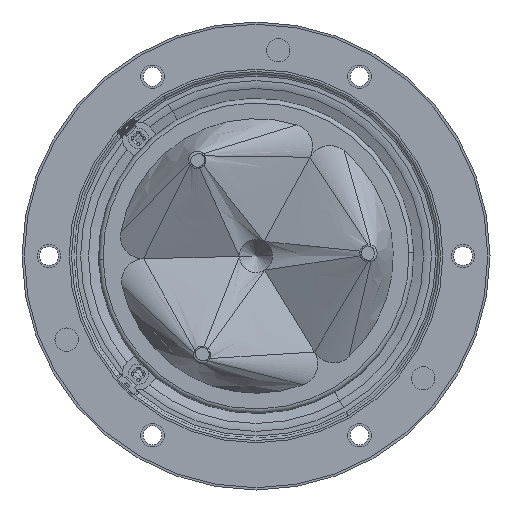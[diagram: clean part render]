
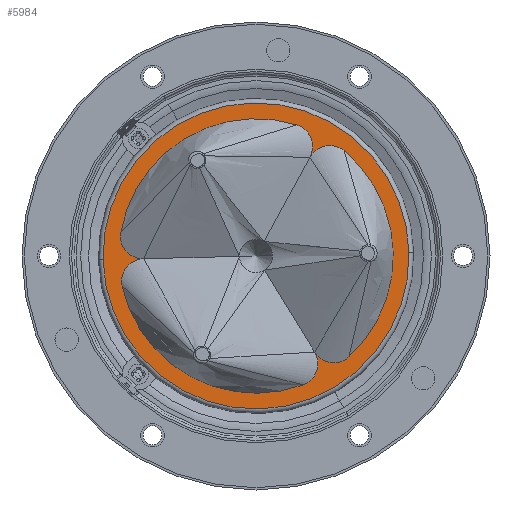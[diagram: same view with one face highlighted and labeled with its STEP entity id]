
A CAD part, front view. The second image highlights one B-rep face of the part: STEP entity #5984.
In plain terms, the highlighted planar face has unit normal (0, -1, 0).
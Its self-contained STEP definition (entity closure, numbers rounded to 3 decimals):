
#91 = DIRECTION ( 'NONE',  ( 0., 1., 0. ) ) ;
#274 = VERTEX_POINT ( 'NONE', #4230 ) ;
#416 = CARTESIAN_POINT ( 'NONE',  ( -30.044, -2., 5.253 ) ) ;
#825 = CARTESIAN_POINT ( 'NONE',  ( 8.756, -2., -23.95 ) ) ;
#1100 = VERTEX_POINT ( 'NONE', #11693 ) ;
#1574 = CIRCLE ( 'NONE', #19925, 5. ) ;
#1603 = ORIENTED_EDGE ( 'NONE', *, *, #9247, .T. ) ;
#1697 = EDGE_CURVE ( 'NONE', #1100, #20050, #13187, .T. ) ;
#1876 = ORIENTED_EDGE ( 'NONE', *, *, #15728, .T. ) ;
#2912 = CARTESIAN_POINT ( 'NONE',  ( -33.99, -2., -0.825 ) ) ;
#3005 = ORIENTED_EDGE ( 'NONE', *, *, #14264, .T. ) ;
#3240 = DIRECTION ( 'NONE',  ( 0., 1., 0. ) ) ;
#3273 = CARTESIAN_POINT ( 'NONE',  ( 11.973, -2., 21.952 ) ) ;
#3329 = CARTESIAN_POINT ( 'NONE',  ( -25.119, -2., 4.392 ) ) ;
#3355 = DIRECTION ( 'NONE',  ( -0.521, 0., 0.854 ) ) ;
#3555 = ORIENTED_EDGE ( 'NONE', *, *, #22005, .T. ) ;
#3563 = CARTESIAN_POINT ( 'NONE',  ( 0., -2., 0. ) ) ;
#3791 = AXIS2_PLACEMENT_3D ( 'NONE', #18908, #13487, #13250 ) ;
#3830 = EDGE_LOOP ( 'NONE', ( #18318, #3555 ) ) ;
#4014 = DIRECTION ( 'NONE',  ( -0.479, 0., -0.878 ) ) ;
#4230 = CARTESIAN_POINT ( 'NONE',  ( -29.754, -2., -6.704 ) ) ;
#4414 = CARTESIAN_POINT ( 'NONE',  ( 16.363, -2., 19.558 ) ) ;
#4853 = DIRECTION ( 'NONE',  ( -0.479, 0., -0.878 ) ) ;
#4989 = CIRCLE ( 'NONE', #19931, 30.5 ) ;
#5109 = EDGE_CURVE ( 'NONE', #11148, #22908, #21781, .T. ) ;
#5338 = EDGE_CURVE ( 'NONE', #22908, #274, #4989, .T. ) ;
#5984 = ADVANCED_FACE ( 'NONE', ( #11828, #10209 ), #19148, .F. ) ;
#6066 = EDGE_CURVE ( 'NONE', #8187, #17034, #17424, .T. ) ;
#6089 = AXIS2_PLACEMENT_3D ( 'NONE', #17176, #16938, #22314 ) ;
#6177 = CARTESIAN_POINT ( 'NONE',  ( 17.292, -2., -18.741 ) ) ;
#6335 = DIRECTION ( 'NONE',  ( 1., 0., 0.024 ) ) ;
#7182 = AXIS2_PLACEMENT_3D ( 'NONE', #825, #13612, #4853 ) ;
#7520 = CIRCLE ( 'NONE', #16178, 5. ) ;
#8080 = DIRECTION ( 'NONE',  ( 1., 0., 0.024 ) ) ;
#8187 = VERTEX_POINT ( 'NONE', #8748 ) ;
#8411 = EDGE_CURVE ( 'NONE', #10162, #17853, #7520, .T. ) ;
#8596 = DIRECTION ( 'NONE',  ( 0., -1., 0. ) ) ;
#8729 = CIRCLE ( 'NONE', #13952, 5. ) ;
#8748 = CARTESIAN_POINT ( 'NONE',  ( -24.998, -2., -0.607 ) ) ;
#9184 = AXIS2_PLACEMENT_3D ( 'NONE', #17162, #22410, #6335 ) ;
#9247 = EDGE_CURVE ( 'NONE', #22085, #11148, #1574, .T. ) ;
#9515 = EDGE_CURVE ( 'NONE', #17853, #22085, #20267, .T. ) ;
#10000 = DIRECTION ( 'NONE',  ( 1., 0., 0.024 ) ) ;
#10028 = CARTESIAN_POINT ( 'NONE',  ( 19.571, -2., 23.393 ) ) ;
#10162 = VERTEX_POINT ( 'NONE', #3273 ) ;
#10209 = FACE_BOUND ( 'NONE', #22751, .T. ) ;
#10514 = DIRECTION ( 'NONE',  ( 0., 1., 0. ) ) ;
#10657 = DIRECTION ( 'NONE',  ( -0.521, 0., 0.854 ) ) ;
#10857 = CARTESIAN_POINT ( 'NONE',  ( 9.071, -2., 29.12 ) ) ;
#10884 = CARTESIAN_POINT ( 'NONE',  ( 0., -2., 0. ) ) ;
#11148 = VERTEX_POINT ( 'NONE', #20246 ) ;
#11350 = CARTESIAN_POINT ( 'NONE',  ( 10.473, -2., -28.646 ) ) ;
#11606 = ORIENTED_EDGE ( 'NONE', *, *, #9515, .T. ) ;
#11693 = CARTESIAN_POINT ( 'NONE',  ( 33.99, -2., 0.825 ) ) ;
#11828 = FACE_OUTER_BOUND ( 'NONE', #3830, .T. ) ;
#11840 = CARTESIAN_POINT ( 'NONE',  ( 0., -2., 0. ) ) ;
#12142 = AXIS2_PLACEMENT_3D ( 'NONE', #3329, #19717, #10657 ) ;
#12447 = ORIENTED_EDGE ( 'NONE', *, *, #6066, .T. ) ;
#12747 = ORIENTED_EDGE ( 'NONE', *, *, #8411, .T. ) ;
#13187 = CIRCLE ( 'NONE', #6089, 34. ) ;
#13219 = DIRECTION ( 'NONE',  ( 0., 1., 0. ) ) ;
#13250 = DIRECTION ( 'NONE',  ( -0.521, 0., 0.854 ) ) ;
#13487 = DIRECTION ( 'NONE',  ( 0., 1., 0. ) ) ;
#13612 = DIRECTION ( 'NONE',  ( 0., 1., 0. ) ) ;
#13873 = CIRCLE ( 'NONE', #3791, 30.5 ) ;
#13952 = AXIS2_PLACEMENT_3D ( 'NONE', #19449, #10514, #17698 ) ;
#14264 = EDGE_CURVE ( 'NONE', #20847, #10162, #15312, .T. ) ;
#15312 = CIRCLE ( 'NONE', #22034, 5. ) ;
#15728 = EDGE_CURVE ( 'NONE', #17034, #20847, #13873, .T. ) ;
#16178 = AXIS2_PLACEMENT_3D ( 'NONE', #4414, #18687, #16937 ) ;
#16937 = DIRECTION ( 'NONE',  ( 1., 0., 0.024 ) ) ;
#16938 = DIRECTION ( 'NONE',  ( 0., -1., 0. ) ) ;
#17034 = VERTEX_POINT ( 'NONE', #416 ) ;
#17162 = CARTESIAN_POINT ( 'NONE',  ( 0., -2., 0. ) ) ;
#17176 = CARTESIAN_POINT ( 'NONE',  ( 0., -2., 0. ) ) ;
#17424 = CIRCLE ( 'NONE', #12142, 5. ) ;
#17698 = DIRECTION ( 'NONE',  ( -0.479, 0., -0.878 ) ) ;
#17853 = VERTEX_POINT ( 'NONE', #10028 ) ;
#17854 = DIRECTION ( 'NONE',  ( 1., 0., 0.024 ) ) ;
#18318 = ORIENTED_EDGE ( 'NONE', *, *, #1697, .T. ) ;
#18687 = DIRECTION ( 'NONE',  ( 0., 1., 0. ) ) ;
#18908 = CARTESIAN_POINT ( 'NONE',  ( 0., -2., 0. ) ) ;
#18929 = DIRECTION ( 'NONE',  ( 0., 1., 0. ) ) ;
#19148 = PLANE ( 'NONE',  #9184 ) ;
#19315 = EDGE_CURVE ( 'NONE', #274, #8187, #8729, .T. ) ;
#19449 = CARTESIAN_POINT ( 'NONE',  ( -24.876, -2., -5.605 ) ) ;
#19641 = ORIENTED_EDGE ( 'NONE', *, *, #19315, .T. ) ;
#19697 = CIRCLE ( 'NONE', #22679, 34. ) ;
#19717 = DIRECTION ( 'NONE',  ( 0., 1., 0. ) ) ;
#19925 = AXIS2_PLACEMENT_3D ( 'NONE', #6177, #13219, #8080 ) ;
#19931 = AXIS2_PLACEMENT_3D ( 'NONE', #10884, #91, #4014 ) ;
#20050 = VERTEX_POINT ( 'NONE', #2912 ) ;
#20067 = CARTESIAN_POINT ( 'NONE',  ( 20.683, -2., -22.416 ) ) ;
#20246 = CARTESIAN_POINT ( 'NONE',  ( 13.024, -2., -21.345 ) ) ;
#20267 = CIRCLE ( 'NONE', #22142, 30.5 ) ;
#20847 = VERTEX_POINT ( 'NONE', #10857 ) ;
#20916 = CARTESIAN_POINT ( 'NONE',  ( 7.584, -2., 24.346 ) ) ;
#21392 = ORIENTED_EDGE ( 'NONE', *, *, #5109, .T. ) ;
#21781 = CIRCLE ( 'NONE', #7182, 5. ) ;
#22005 = EDGE_CURVE ( 'NONE', #20050, #1100, #19697, .T. ) ;
#22034 = AXIS2_PLACEMENT_3D ( 'NONE', #20916, #3240, #3355 ) ;
#22085 = VERTEX_POINT ( 'NONE', #20067 ) ;
#22142 = AXIS2_PLACEMENT_3D ( 'NONE', #11840, #18929, #10000 ) ;
#22314 = DIRECTION ( 'NONE',  ( 1., 0., 0.024 ) ) ;
#22410 = DIRECTION ( 'NONE',  ( 0., 1., 0. ) ) ;
#22679 = AXIS2_PLACEMENT_3D ( 'NONE', #3563, #8596, #17854 ) ;
#22751 = EDGE_LOOP ( 'NONE', ( #3005, #12747, #11606, #1603, #21392, #22786, #19641, #12447, #1876 ) ) ;
#22786 = ORIENTED_EDGE ( 'NONE', *, *, #5338, .T. ) ;
#22908 = VERTEX_POINT ( 'NONE', #11350 ) ;
